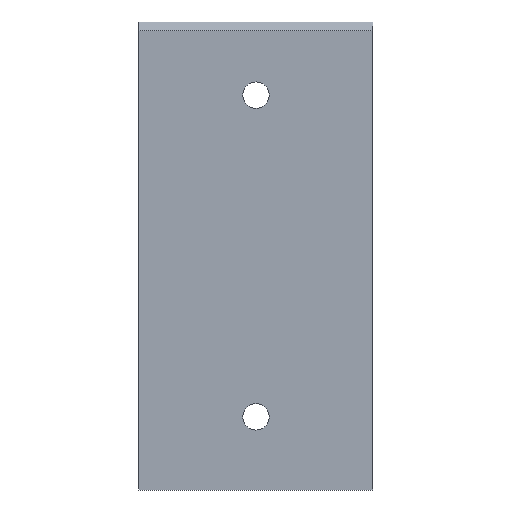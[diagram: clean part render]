
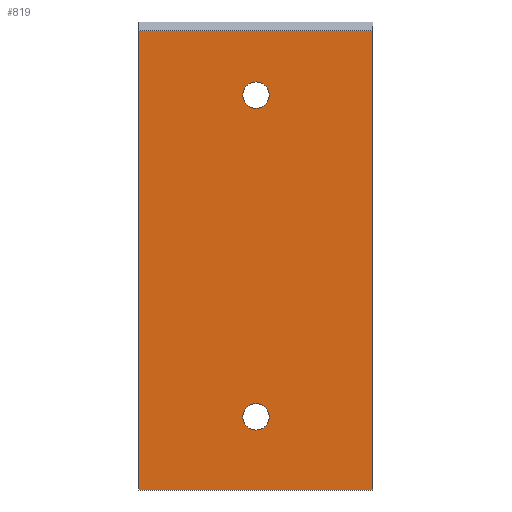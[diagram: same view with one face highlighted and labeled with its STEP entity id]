
A CAD part, front view. The second image highlights one B-rep face of the part: STEP entity #819.
In plain terms, the highlighted planar face has unit normal (0, -1, 0).
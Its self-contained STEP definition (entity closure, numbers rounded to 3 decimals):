
#102 = ORIENTED_EDGE ( 'NONE', *, *, #3606, .F. ) ;
#198 = DIRECTION ( 'NONE',  ( 1., 0., 0. ) ) ;
#242 = CARTESIAN_POINT ( 'NONE',  ( 40., 0., 157. ) ) ;
#248 = VERTEX_POINT ( 'NONE', #1753 ) ;
#249 = CARTESIAN_POINT ( 'NONE',  ( 0., 0., 157. ) ) ;
#250 = CIRCLE ( 'NONE', #670, 4.5 ) ;
#387 = AXIS2_PLACEMENT_3D ( 'NONE', #2868, #2839, #4613 ) ;
#435 = DIRECTION ( 'NONE',  ( 0., -1., 0. ) ) ;
#602 = EDGE_LOOP ( 'NONE', ( #1266, #3662, #1509, #3223 ) ) ;
#624 = EDGE_CURVE ( 'NONE', #1317, #4535, #250, .T. ) ;
#660 = DIRECTION ( 'NONE',  ( 0., -1., 0. ) ) ;
#665 = EDGE_CURVE ( 'NONE', #4476, #5286, #1114, .T. ) ;
#670 = AXIS2_PLACEMENT_3D ( 'NONE', #1338, #3561, #3547 ) ;
#741 = EDGE_CURVE ( 'NONE', #5286, #4476, #3718, .T. ) ;
#819 = ADVANCED_FACE ( 'NONE', ( #4502, #5510, #1108 ), #1285, .T. ) ;
#1031 = CARTESIAN_POINT ( 'NONE',  ( 40., 0., 0. ) ) ;
#1044 = DIRECTION ( 'NONE',  ( 1., 0., 0. ) ) ;
#1081 = EDGE_CURVE ( 'NONE', #2691, #248, #3303, .T. ) ;
#1108 = FACE_BOUND ( 'NONE', #3201, .T. ) ;
#1114 = CIRCLE ( 'NONE', #387, 4.5 ) ;
#1144 = CARTESIAN_POINT ( 'NONE',  ( 80., 0., 78.5 ) ) ;
#1198 = CARTESIAN_POINT ( 'NONE',  ( 40., 0., 135. ) ) ;
#1266 = ORIENTED_EDGE ( 'NONE', *, *, #2696, .T. ) ;
#1282 = DIRECTION ( 'NONE',  ( 0., 0., -1. ) ) ;
#1285 = PLANE ( 'NONE',  #3136 ) ;
#1317 = VERTEX_POINT ( 'NONE', #3463 ) ;
#1338 = CARTESIAN_POINT ( 'NONE',  ( 40., 0., 25. ) ) ;
#1509 = ORIENTED_EDGE ( 'NONE', *, *, #1081, .F. ) ;
#1512 = CARTESIAN_POINT ( 'NONE',  ( 35.5, 0., 135. ) ) ;
#1639 = EDGE_CURVE ( 'NONE', #2347, #248, #5165, .T. ) ;
#1753 = CARTESIAN_POINT ( 'NONE',  ( 80., 0., 0. ) ) ;
#1785 = VECTOR ( 'NONE', #1044, 1000. ) ;
#2050 = ORIENTED_EDGE ( 'NONE', *, *, #665, .F. ) ;
#2135 = EDGE_CURVE ( 'NONE', #3068, #2691, #2638, .T. ) ;
#2157 = DIRECTION ( 'NONE',  ( 0., 0., -1. ) ) ;
#2186 = DIRECTION ( 'NONE',  ( 0., -1., 0. ) ) ;
#2302 = CARTESIAN_POINT ( 'NONE',  ( 0., 0., 78.5 ) ) ;
#2347 = VERTEX_POINT ( 'NONE', #3206 ) ;
#2638 = LINE ( 'NONE', #242, #3769 ) ;
#2667 = CARTESIAN_POINT ( 'NONE',  ( 44.5, 0., 135. ) ) ;
#2691 = VERTEX_POINT ( 'NONE', #3340 ) ;
#2696 = EDGE_CURVE ( 'NONE', #3068, #2347, #4350, .T. ) ;
#2737 = ORIENTED_EDGE ( 'NONE', *, *, #741, .F. ) ;
#2741 = CARTESIAN_POINT ( 'NONE',  ( 44.5, 0., 25. ) ) ;
#2839 = DIRECTION ( 'NONE',  ( 0., -1., 0. ) ) ;
#2868 = CARTESIAN_POINT ( 'NONE',  ( 40., 0., 135. ) ) ;
#3068 = VERTEX_POINT ( 'NONE', #249 ) ;
#3136 = AXIS2_PLACEMENT_3D ( 'NONE', #4701, #660, #4771 ) ;
#3201 = EDGE_LOOP ( 'NONE', ( #2050, #2737 ) ) ;
#3206 = CARTESIAN_POINT ( 'NONE',  ( 0., 0., 0. ) ) ;
#3221 = VECTOR ( 'NONE', #1282, 1000. ) ;
#3223 = ORIENTED_EDGE ( 'NONE', *, *, #2135, .F. ) ;
#3303 = LINE ( 'NONE', #1144, #3704 ) ;
#3340 = CARTESIAN_POINT ( 'NONE',  ( 80., 0., 157. ) ) ;
#3463 = CARTESIAN_POINT ( 'NONE',  ( 35.5, 0., 25. ) ) ;
#3485 = CIRCLE ( 'NONE', #3812, 4.5 ) ;
#3547 = DIRECTION ( 'NONE',  ( 1., 0., 0. ) ) ;
#3561 = DIRECTION ( 'NONE',  ( 0., -1., 0. ) ) ;
#3606 = EDGE_CURVE ( 'NONE', #4535, #1317, #3485, .T. ) ;
#3662 = ORIENTED_EDGE ( 'NONE', *, *, #1639, .T. ) ;
#3704 = VECTOR ( 'NONE', #2157, 1000. ) ;
#3718 = CIRCLE ( 'NONE', #3813, 4.5 ) ;
#3769 = VECTOR ( 'NONE', #198, 1000. ) ;
#3812 = AXIS2_PLACEMENT_3D ( 'NONE', #4711, #2186, #5137 ) ;
#3813 = AXIS2_PLACEMENT_3D ( 'NONE', #1198, #435, #4351 ) ;
#4350 = LINE ( 'NONE', #2302, #3221 ) ;
#4351 = DIRECTION ( 'NONE',  ( 1., 0., 0. ) ) ;
#4450 = EDGE_LOOP ( 'NONE', ( #4747, #102 ) ) ;
#4476 = VERTEX_POINT ( 'NONE', #2667 ) ;
#4502 = FACE_OUTER_BOUND ( 'NONE', #602, .T. ) ;
#4535 = VERTEX_POINT ( 'NONE', #2741 ) ;
#4613 = DIRECTION ( 'NONE',  ( 1., 0., 0. ) ) ;
#4701 = CARTESIAN_POINT ( 'NONE',  ( 0., 0., 160. ) ) ;
#4711 = CARTESIAN_POINT ( 'NONE',  ( 40., 0., 25. ) ) ;
#4747 = ORIENTED_EDGE ( 'NONE', *, *, #624, .F. ) ;
#4771 = DIRECTION ( 'NONE',  ( 0., 0., -1. ) ) ;
#5137 = DIRECTION ( 'NONE',  ( 1., 0., 0. ) ) ;
#5165 = LINE ( 'NONE', #1031, #1785 ) ;
#5286 = VERTEX_POINT ( 'NONE', #1512 ) ;
#5510 = FACE_BOUND ( 'NONE', #4450, .T. ) ;
